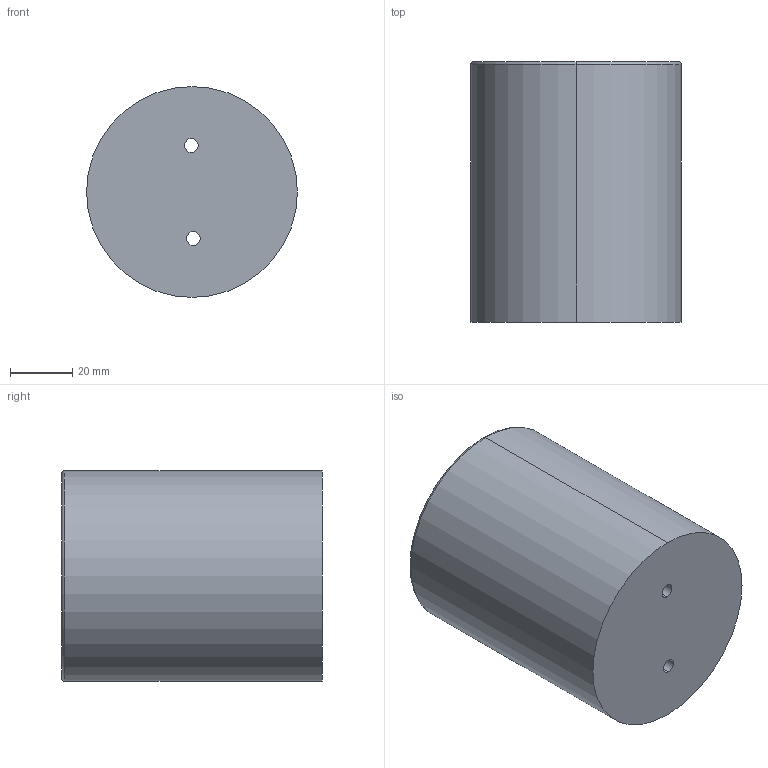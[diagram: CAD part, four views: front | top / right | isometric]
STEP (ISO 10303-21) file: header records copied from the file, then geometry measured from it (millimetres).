
FILE_DESCRIPTION (( 'STEP AP214' ), '1' );
FILE_NAME ('Contenedor de botella.STEP', '2019-05-12T01:57:45', ( '' ), ( '' ), 'SwSTEP 2.0', 'SolidWorks 2018', '' );
FILE_SCHEMA (( 'AUTOMOTIVE_DESIGN' ));
Length unit declared in the file: millimetre
Products named in the file (1): Contenedor de botella
Bounding box: 68 x 84 x 68 mm (x, y, z)
Volume: 144775.2 mm3; surface area: 36251.3 mm2
Topology: 1 solids, 1 shells, 18 faces, 38 edges, 24 vertices
Faces by surface type: cylinder 12, plane 4, torus 2
Entity records: 538 total; most frequent: DIRECTION 102, CARTESIAN_POINT 81, ORIENTED_EDGE 76, AXIS2_PLACEMENT_3D 45, EDGE_CURVE 38, CIRCLE 26, EDGE_LOOP 24, VERTEX_POINT 24
